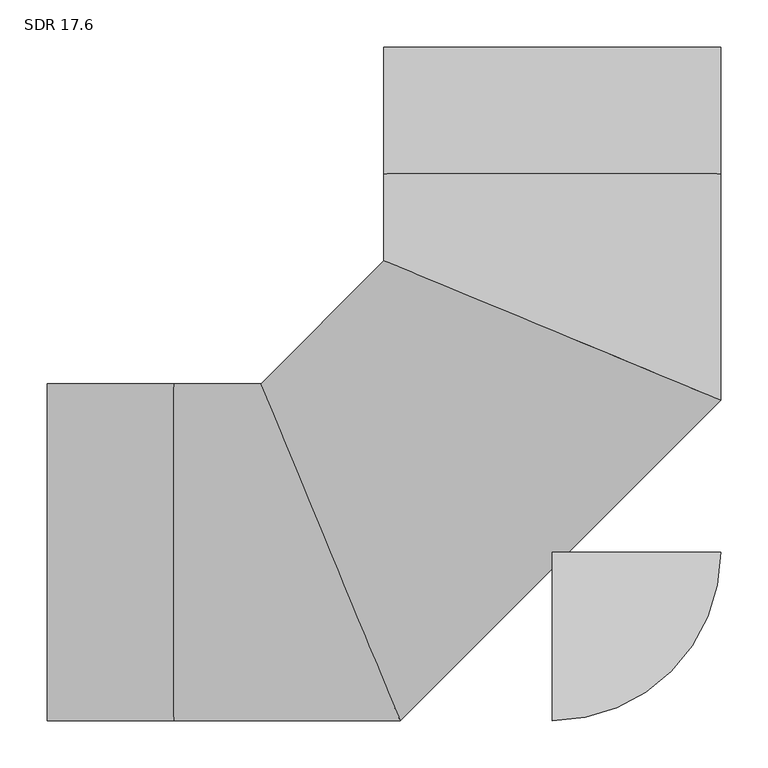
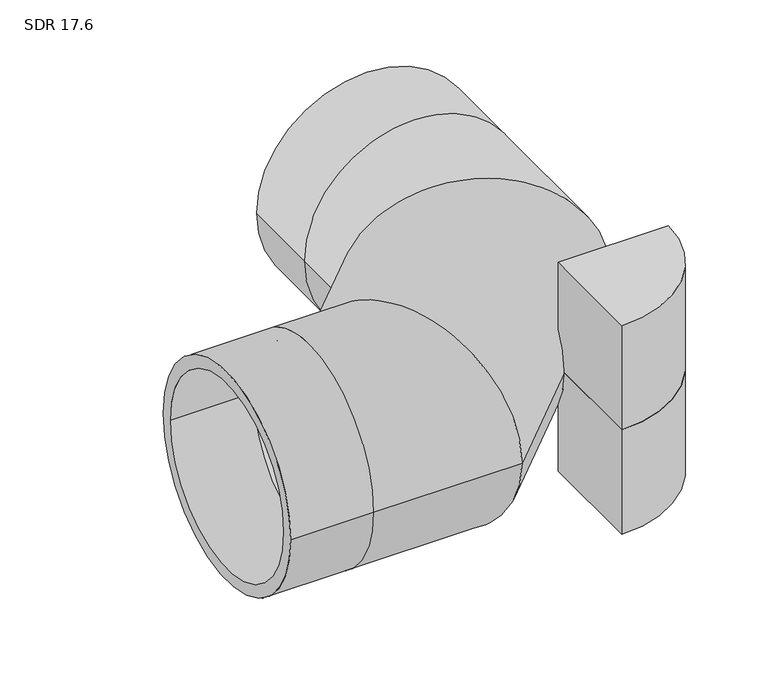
"""IFC4 building model written with IfcOpenShell, lengths in millimetres: pipe fitting geometry, Aquatherm - Elbow Blue BW Segmented : SDR 17.6."""

from ifc_helpers import new_model, si_unit, point, frame, origin, origin_with_axes, origin_2d, place, context, project, spatial, polyline, circle_curve, ellipse_curve, trimmed, segment, composite_curve, outline, extrude, source, transform, mapped, element, save
from ifc_brep_helpers import plane_surface, cylinder_surface, revolved_surface, advanced_brep


def sdr_17_6_b17b129f(model_context):
    return source(origin(), model_context, "Body", "SolidModel", [
        extrude(outline(composite_curve([segment(polyline([(0.0, -177.8), (0.0, 0.0), (177.8, 0.0)]), True, "CONTINUOUS"), segment(trimmed(circle_curve(origin_2d(), 177.8), [point((177.8, 0.0))], [point((0.0, -177.8))], False, "CARTESIAN"), True, "CONTINUOUS")], self_intersect=False)), frame((0.0, 0.0, -177.8), z_axis=(0.0, 0.0, 1.0), x_axis=(1.0, 0.0, 0.0)), (0.0, 0.0, 1.0), 177.8),
        extrude(outline(composite_curve([segment(trimmed(circle_curve(origin_2d(), 177.8), [point((177.8, 0.0))], [point((0.0, -177.8))], False, "CARTESIAN"), True, "CONTINUOUS"), segment(polyline([(0.0, -177.8), (0.0, 0.0), (177.8, 0.0)]), True, "CONTINUOUS")], self_intersect=False)), origin_with_axes(), (0.0, 0.0, 1.0), 177.8),
        advanced_brep(
        [(-533.4, -177.8, 0.0), (-533.4, 177.8, 0.0), (-533.4, -157.5972481, 0.0), (-533.4, 157.5972481, 0.0), (177.8, 533.4, 0.0), (-177.8, 533.4, 0.0), (157.5972481, 533.4, 0.0), (-157.5972481, 533.4, 0.0), (-400.05, -177.8, 0.0), (-400.05, 177.8, 0.0), (-400.05, -157.5972481, 0.0), (-400.05, 157.5972481, 0.0), (-160.696693, -177.8, 0.0), (-307.9910358, 177.8, 0.0), (-169.0649468, -157.5972481, 0.0), (-299.6227819, 157.5972481, 0.0), (177.8, 160.696693, 0.0), (-177.8, 307.9910358, 0.0), (157.5972481, 169.0649468, 0.0), (-157.5972481, 299.6227819, 0.0), (-177.8, 400.05, 0.0), (177.8, 400.05, 0.0), (-157.5972481, 400.05, 0.0), (157.5972481, 400.05, 0.0)],
        [
            (0, 1, circle_curve(frame((-533.4, 0.0, 0.0), z_axis=(-1.0, 0.0, 0.0), x_axis=(0.0, 1.0, 0.0)), 177.8)),
            (1, 0, circle_curve(frame((-533.4, 0.0, 0.0), z_axis=(-1.0, 0.0, 0.0), x_axis=(0.0, 1.0, 0.0)), 177.8)),
            (2, 3, circle_curve(frame((-533.4, 0.0, 0.0), z_axis=(1.0, 0.0, 0.0), x_axis=(0.0, 1.0, 0.0)), 157.5972481)),
            (3, 2, circle_curve(frame((-533.4, 0.0, 0.0), z_axis=(1.0, 0.0, 0.0), x_axis=(0.0, 1.0, 0.0)), 157.5972481)),
            (4, 5, circle_curve(frame((0.0, 533.4, 0.0), z_axis=(0.0, 1.0, 0.0), x_axis=(-1.0, 0.0, 0.0)), 177.8)),
            (5, 4, circle_curve(frame((0.0, 533.4, 0.0), z_axis=(0.0, 1.0, 0.0), x_axis=(-1.0, 0.0, 0.0)), 177.8)),
            (6, 7, circle_curve(frame((0.0, 533.4, 0.0), z_axis=(0.0, -1.0, 0.0), x_axis=(-1.0, 0.0, 0.0)), 157.5972481)),
            (7, 6, circle_curve(frame((0.0, 533.4, 0.0), z_axis=(0.0, -1.0, 0.0), x_axis=(-1.0, 0.0, 0.0)), 157.5972481)),
            (0, 8),
            (8, 9, circle_curve(frame((-400.05, 0.0, 0.0), z_axis=(-1.0, 0.0, 0.0), x_axis=(0.0, 1.0, 0.0)), 177.8)),
            (9, 1),
            (9, 8, circle_curve(frame((-400.05, 0.0, 0.0), z_axis=(-1.0, 0.0, 0.0), x_axis=(0.0, 1.0, 0.0)), 177.8)),
            (2, 10),
            (10, 11, circle_curve(frame((-400.05, 0.0, 0.0), z_axis=(1.0, 0.0, 0.0), x_axis=(0.0, 1.0, 0.0)), 157.5972481)),
            (11, 3),
            (11, 10, circle_curve(frame((-400.05, 0.0, 0.0), z_axis=(1.0, 0.0, 0.0), x_axis=(0.0, 1.0, 0.0)), 157.5972481)),
            (8, 12),
            (12, 13, ellipse_curve(frame((-234.3438644, 0.0, 0.0), z_axis=(-0.9238795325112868, -0.38268343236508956, 0.0), x_axis=(-0.3826834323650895, 0.9238795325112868, 0.0)), 192.4493332, 177.8)),
            (13, 9),
            (13, 12, ellipse_curve(frame((-234.3438644, 0.0, 0.0), z_axis=(-0.9238795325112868, -0.38268343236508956, 0.0), x_axis=(-0.3826834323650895, 0.9238795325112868, 0.0)), 192.4493332, 177.8)),
            (10, 14),
            (14, 15, ellipse_curve(frame((-234.3438644, 0.0, 0.0), z_axis=(0.9238795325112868, 0.38268343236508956, 0.0), x_axis=(0.3826834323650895, -0.9238795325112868, 0.0)), 170.5820321, 157.5972481)),
            (15, 11),
            (15, 14, ellipse_curve(frame((-234.3438644, 0.0, 0.0), z_axis=(0.9238795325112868, 0.38268343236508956, 0.0), x_axis=(0.3826834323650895, -0.9238795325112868, 0.0)), 170.5820321, 157.5972481)),
            (12, 16),
            (16, 17, ellipse_curve(frame((0.0, 234.3438644, 0.0), z_axis=(-0.3826834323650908, -0.9238795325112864, 0.0), x_axis=(-0.9238795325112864, 0.3826834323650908, 0.0)), 192.4493332, 177.8)),
            (17, 13),
            (17, 16, ellipse_curve(frame((0.0, 234.3438644, 0.0), z_axis=(-0.3826834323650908, -0.9238795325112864, 0.0), x_axis=(-0.9238795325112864, 0.3826834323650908, 0.0)), 192.4493332, 177.8)),
            (14, 18),
            (18, 19, ellipse_curve(frame((0.0, 234.3438644, 0.0), z_axis=(0.3826834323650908, 0.9238795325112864, 0.0), x_axis=(0.9238795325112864, -0.3826834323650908, 0.0)), 170.5820321, 157.5972481)),
            (19, 15),
            (19, 18, ellipse_curve(frame((0.0, 234.3438644, 0.0), z_axis=(0.3826834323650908, 0.9238795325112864, 0.0), x_axis=(0.9238795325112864, -0.3826834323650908, 0.0)), 170.5820321, 157.5972481)),
            (20, 21, circle_curve(frame((0.0, 400.05, 0.0), z_axis=(0.0, 1.0, 0.0), x_axis=(-1.0, 0.0, 0.0)), 177.8)),
            (21, 4),
            (5, 20),
            (21, 20, circle_curve(frame((0.0, 400.05, 0.0), z_axis=(0.0, 1.0, 0.0), x_axis=(-1.0, 0.0, 0.0)), 177.8)),
            (22, 23, circle_curve(frame((0.0, 400.05, 0.0), z_axis=(0.0, -1.0, 0.0), x_axis=(-1.0, 0.0, 0.0)), 157.5972481)),
            (23, 6),
            (7, 22),
            (23, 22, circle_curve(frame((0.0, 400.05, 0.0), z_axis=(0.0, -1.0, 0.0), x_axis=(-1.0, 0.0, 0.0)), 157.5972481)),
            (16, 21),
            (20, 17),
            (18, 23),
            (22, 19),
        ],
        [
            plane_surface(frame((-533.4, 0.0, 0.0), z_axis=(-1.0, 0.0, 0.0), x_axis=(0.0, 0.0, 1.0))),
            plane_surface(frame((0.0, 533.4, 0.0), z_axis=(0.0, 1.0, 0.0), x_axis=(0.0, 0.0, 1.0))),
            cylinder_surface(frame((-533.4, 0.0, 0.0), z_axis=(-1.0, 0.0, 0.0), x_axis=(0.0, 1.0, 0.0)), 177.8),
            revolved_surface(polyline([(-400.05, 157.5972481, 0.0), (-533.4, 157.5972481, 0.0)]), (-533.4, 0.0, 0.0), (1.0, 0.0, 0.0)),
            cylinder_surface(frame((-400.05, 0.0, 0.0), z_axis=(-1.0, 0.0, 0.0), x_axis=(0.0, 1.0, 0.0)), 177.8),
            revolved_surface(polyline([(-169.0649468, 157.5972481, 0.0), (-400.05, 157.5972481, 0.0)]), (-400.05, 0.0, 0.0), (1.0, 0.0, 0.0)),
            cylinder_surface(frame((-234.3438644, 0.0, 0.0), z_axis=(-0.7071067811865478, -0.7071067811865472, 0.0), x_axis=(-0.7071067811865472, 0.7071067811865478, 0.0)), 177.8),
            revolved_surface(polyline([(-65.27891756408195, 391.94111249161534, 0.0), (-391.9411124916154, 65.27891756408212, 0.0)]), (-234.3438644, 0.0, 0.0), (0.7071067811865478, 0.7071067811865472, 0.0)),
            cylinder_surface(frame((0.0, 400.05, 0.0), z_axis=(0.0, -1.0, 0.0), x_axis=(-1.0, 0.0, 0.0)), 177.8),
            revolved_surface(polyline([(-157.5972481, 533.4, 0.0), (-157.5972481, 400.05, 0.0)]), (0.0, 400.05, 0.0), (0.0, 1.0, 0.0)),
            cylinder_surface(frame((0.0, 234.3438644, 0.0), z_axis=(0.0, -1.0, 0.0), x_axis=(-1.0, 0.0, 0.0)), 177.8),
            revolved_surface(polyline([(-157.5972481, 400.05, 0.0), (-157.5972481, 169.0649468, 0.0)]), (0.0, 234.3438644, 0.0), (0.0, 1.0, 0.0)),
        ],
        [
            (0, [[1, 2], [3, 4]]),
            (1, [[5, 6], [7, 8]]),
            (2, [[-1, 9, 10, 11]]),
            (2, [[-2, -11, 12, -9]]),
            (3, [[-3, 13, 14, 15]]),
            (3, [[-4, -15, 16, -13]]),
            (4, [[-10, 17, 18, 19]]),
            (4, [[-12, -19, 20, -17]]),
            (5, [[-14, 21, 22, 23]]),
            (5, [[-16, -23, 24, -21]]),
            (6, [[-18, 25, 26, 27]]),
            (6, [[-20, -27, 28, -25]]),
            (7, [[-22, 29, 30, 31]]),
            (7, [[-24, -31, 32, -29]]),
            (8, [[33, 34, -6, 35]]),
            (8, [[36, -35, -5, -34]]),
            (9, [[37, 38, -8, 39]]),
            (9, [[40, -39, -7, -38]]),
            (10, [[-26, 41, -33, 42]]),
            (10, [[-28, -42, -36, -41]]),
            (11, [[-30, 43, -37, 44]]),
            (11, [[-32, -44, -40, -43]]),
        ],
    ),
    ])


if __name__ == "__main__":
    model = new_model("IFC4")
    model_context = context("Model", 3, world=origin())
    ifc_project = project(units=[si_unit("LENGTHUNIT", "METRE", prefix="MILLI")], contexts=[model_context])
    site = spatial("IfcSite", under=ifc_project)
    building = spatial("IfcBuilding", under=site)
    placement = place(None, origin())
    sdr_17_6_shape = sdr_17_6_b17b129f(model_context)
    element("IfcPipeFitting", 1, ObjectType="Aquatherm - Elbow Blue BW Segmented : SDR 17.6", at=placement, inside=building, context=model_context, shape_type="MappedRepresentation", body=[
        mapped(sdr_17_6_shape, transform((0.0, 0.0, 0.0), x_axis=(1.0, 0.0, 0.0), y_axis=(0.0, 1.0, 0.0), z_axis=(0.0, 0.0, 1.0))),
    ])
    save(model, "model.ifc")
